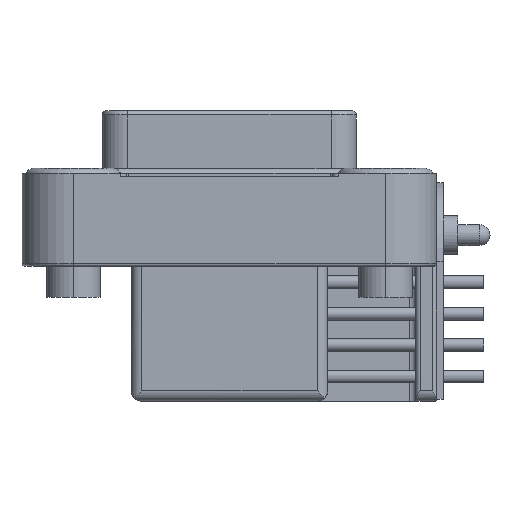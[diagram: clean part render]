
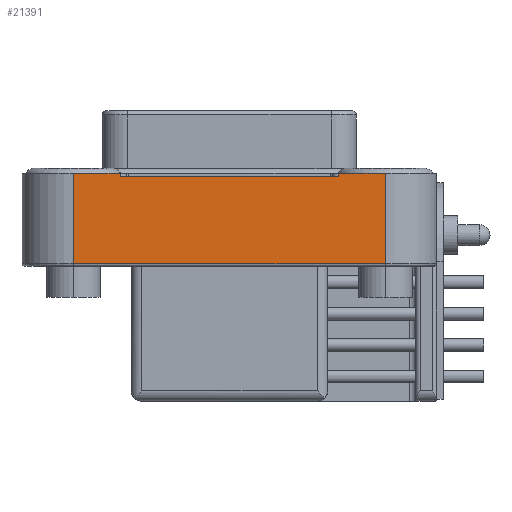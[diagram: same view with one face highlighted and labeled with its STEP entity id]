
A CAD part, left-side view. The second image highlights one B-rep face of the part: STEP entity #21391.
In plain terms, the highlighted planar face has unit normal (-1, 0, 0).
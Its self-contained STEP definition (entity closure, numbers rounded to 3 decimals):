
#4494=DIRECTION('',(0.,-1.,0.));
#4495=VECTOR('',#4494,5.69);
#4496=CARTESIAN_POINT('',(-47.523,-13.272,-7.62));
#4497=LINE('',#4496,#4495);
#4520=DIRECTION('',(0.,-1.,0.));
#4521=VECTOR('',#4520,5.69);
#4522=CARTESIAN_POINT('',(-47.523,18.961,-7.62));
#4523=LINE('',#4522,#4521);
#5637=DIRECTION('',(0.,1.,0.));
#5638=VECTOR('',#5637,26.543);
#5639=CARTESIAN_POINT('',(-47.523,-13.272,-8.001));
#5640=LINE('',#5639,#5638);
#7650=DIRECTION('',(0.,0.,-1.));
#7651=VECTOR('',#7650,10.998);
#7652=CARTESIAN_POINT('',(-47.523,18.961,-7.62));
#7653=LINE('',#7652,#7651);
#7659=DIRECTION('',(0.,0.,-1.));
#7660=VECTOR('',#7659,0.381);
#7661=CARTESIAN_POINT('',(-47.523,-13.272,-7.62));
#7662=LINE('',#7661,#7660);
#7663=DIRECTION('',(0.,1.,0.));
#7664=VECTOR('',#7663,37.922);
#7665=CARTESIAN_POINT('',(-47.523,-18.961,-18.618));
#7666=LINE('',#7665,#7664);
#7667=DIRECTION('',(0.,0.,-1.));
#7668=VECTOR('',#7667,0.381);
#7669=CARTESIAN_POINT('',(-47.523,13.272,-7.62));
#7670=LINE('',#7669,#7668);
#7715=DIRECTION('',(0.,0.,1.));
#7716=VECTOR('',#7715,10.998);
#7717=CARTESIAN_POINT('',(-47.523,-18.961,-18.618));
#7718=LINE('',#7717,#7716);
#10701=CARTESIAN_POINT('',(-47.523,18.961,-18.618));
#10702=VERTEX_POINT('',#10701);
#10705=CARTESIAN_POINT('',(-47.523,-18.961,-18.618));
#10706=VERTEX_POINT('',#10705);
#10799=CARTESIAN_POINT('',(-47.523,-18.961,-7.62));
#10801=VERTEX_POINT('',#10799);
#10812=CARTESIAN_POINT('',(-47.523,18.961,-7.62));
#10814=VERTEX_POINT('',#10812);
#11035=CARTESIAN_POINT('',(-47.523,-13.272,-7.62));
#11036=VERTEX_POINT('',#11035);
#11037=CARTESIAN_POINT('',(-47.523,-13.272,-8.001));
#11038=VERTEX_POINT('',#11037);
#11039=CARTESIAN_POINT('',(-47.523,13.272,-7.62));
#11040=CARTESIAN_POINT('',(-47.523,13.272,-8.001));
#11041=VERTEX_POINT('',#11039);
#11042=VERTEX_POINT('',#11040);
#21373=CARTESIAN_POINT('',(-47.523,18.961,-18.872));
#21374=DIRECTION('',(-1.,0.,0.));
#21375=DIRECTION('',(0.,-1.,0.));
#21376=AXIS2_PLACEMENT_3D('',#21373,#21374,#21375);
#21377=PLANE('',#21376);
#21379=ORIENTED_EDGE('',*,*,#21378,.F.);
#21380=ORIENTED_EDGE('',*,*,#18736,.T.);
#21382=ORIENTED_EDGE('',*,*,#21381,.F.);
#21383=ORIENTED_EDGE('',*,*,#21328,.T.);
#21384=ORIENTED_EDGE('',*,*,#21367,.F.);
#21385=ORIENTED_EDGE('',*,*,#18752,.T.);
#21387=ORIENTED_EDGE('',*,*,#21386,.T.);
#21388=ORIENTED_EDGE('',*,*,#19640,.F.);
#21389=EDGE_LOOP('',(#21379,#21380,#21382,#21383,#21384,#21385,#21387,#21388));
#21390=FACE_OUTER_BOUND('',#21389,.F.);
#21391=ADVANCED_FACE('',(#21390),#21377,.T.);
#18736=EDGE_CURVE('',#11036,#10801,#4497,.T.);
#18752=EDGE_CURVE('',#10814,#11041,#4523,.T.);
#19640=EDGE_CURVE('',#11038,#11042,#5640,.T.);
#21328=EDGE_CURVE('',#10706,#10702,#7666,.T.);
#21367=EDGE_CURVE('',#10814,#10702,#7653,.T.);
#21378=EDGE_CURVE('',#11036,#11038,#7662,.T.);
#21381=EDGE_CURVE('',#10706,#10801,#7718,.T.);
#21386=EDGE_CURVE('',#11041,#11042,#7670,.T.);
